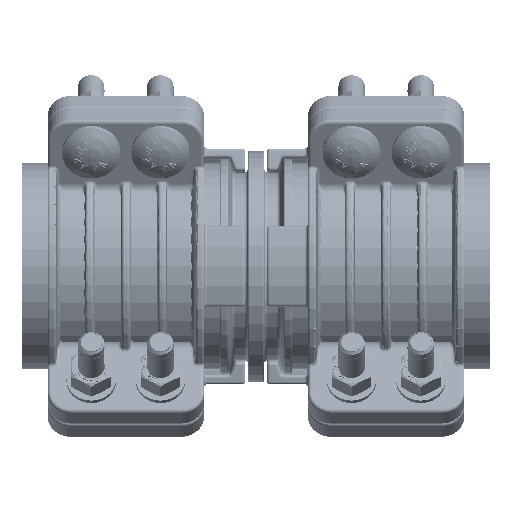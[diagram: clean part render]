
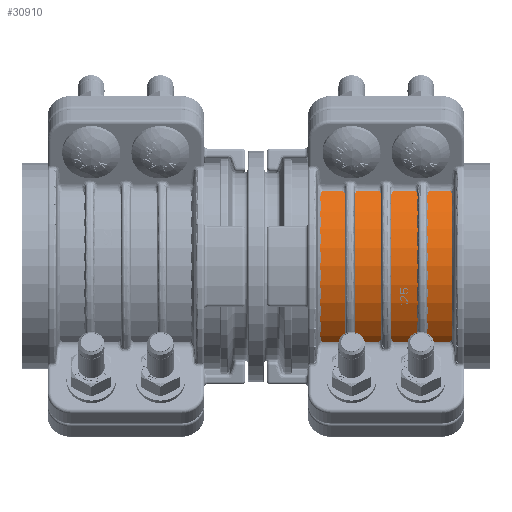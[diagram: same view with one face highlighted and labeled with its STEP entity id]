
A CAD part, front view. The second image highlights one B-rep face of the part: STEP entity #30910.
In plain terms, the highlighted cylindrical face has radius 65.75 mm (diameter 131.5 mm), a partial arc.
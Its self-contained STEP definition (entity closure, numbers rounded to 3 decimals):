
#30869=CARTESIAN_POINT('',(120.,0.,0.));
#30870=DIRECTION('',(1.,0.,0.));
#30871=DIRECTION('',(0.,0.766,-0.643));
#30872=AXIS2_PLACEMENT_3D('',#30869,#30870,#30871);
#30874=DIRECTION('',(-1.,0.,0.));
#30875=VECTOR('',#30874,95.);
#30876=CARTESIAN_POINT('',(120.,11.417,64.751));
#30877=LINE('',#30876,#30875);
#30878=CARTESIAN_POINT('',(25.,0.,0.));
#30879=DIRECTION('',(-1.,0.,0.));
#30880=DIRECTION('',(0.,0.174,0.985));
#30881=AXIS2_PLACEMENT_3D('',#30878,#30879,#30880);
#30883=DIRECTION('',(1.,0.,0.));
#30884=VECTOR('',#30883,95.);
#30885=CARTESIAN_POINT('',(25.,50.367,-42.263));
#30886=LINE('',#30885,#30884);
#30887=CARTESIAN_POINT('',(120.,50.367,-42.263));
#30888=CARTESIAN_POINT('',(120.,11.417,64.751));
#30889=VERTEX_POINT('',#30887);
#30890=VERTEX_POINT('',#30888);
#30891=CARTESIAN_POINT('',(25.,50.367,-42.263));
#30892=CARTESIAN_POINT('',(25.,11.417,64.751));
#30893=VERTEX_POINT('',#30891);
#30894=VERTEX_POINT('',#30892);
#30895=CARTESIAN_POINT('',(120.,0.,0.));
#30896=DIRECTION('',(1.,0.,0.));
#30897=DIRECTION('',(0.,0.342,-0.94));
#30898=AXIS2_PLACEMENT_3D('',#30895,#30896,#30897);
#30899=CYLINDRICAL_SURFACE('',#30898,65.75);
#30901=ORIENTED_EDGE('',*,*,#30900,.T.);
#30903=ORIENTED_EDGE('',*,*,#30902,.T.);
#30905=ORIENTED_EDGE('',*,*,#30904,.T.);
#30907=ORIENTED_EDGE('',*,*,#30906,.T.);
#30908=EDGE_LOOP('',(#30901,#30903,#30905,#30907));
#30909=FACE_OUTER_BOUND('',#30908,.F.);
#30910=ADVANCED_FACE('',(#30909),#30899,.T.);
#30873=CIRCLE('',#30872,65.75);
#30882=CIRCLE('',#30881,65.75);
#30900=EDGE_CURVE('',#30889,#30890,#30873,.T.);
#30902=EDGE_CURVE('',#30890,#30894,#30877,.T.);
#30904=EDGE_CURVE('',#30894,#30893,#30882,.T.);
#30906=EDGE_CURVE('',#30893,#30889,#30886,.T.);
